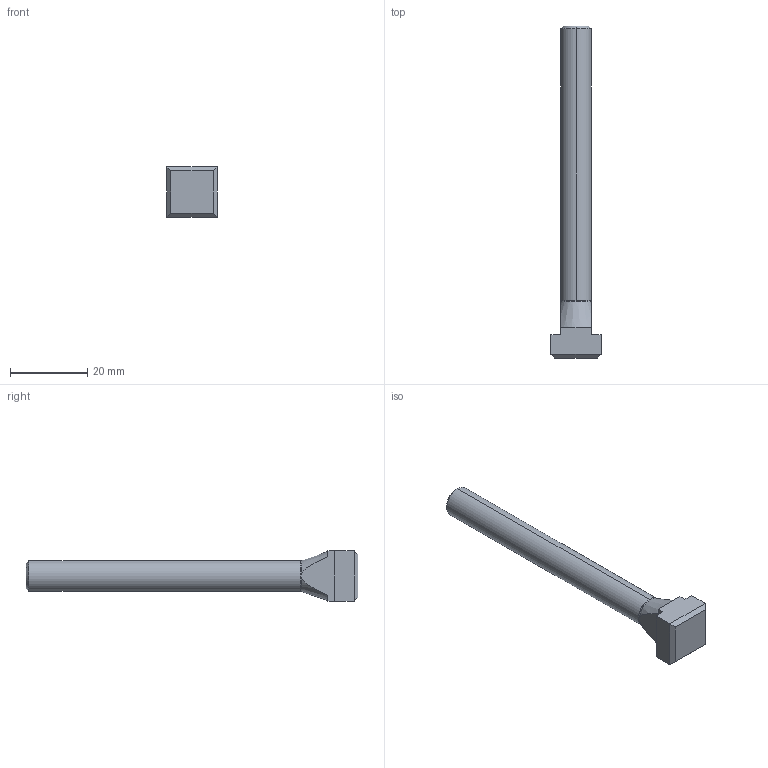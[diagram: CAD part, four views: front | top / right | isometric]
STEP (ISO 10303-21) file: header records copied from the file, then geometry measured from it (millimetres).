
FILE_DESCRIPTION (( 'STEP AP203' ), '1' );
FILE_NAME ('Wiberger-din787_8-m8x80.step', '2016-07-01T13:16:53', ( 'Magnus' ), ( 'Microsoft' ), 'SwSTEP 2.0', 'SolidWorks 2016', '' );
FILE_SCHEMA (( 'CONFIG_CONTROL_DESIGN' ));
Length unit declared in the file: millimetre
Products named in the file (1): Wiberger-din787_8-m8x80
Bounding box: 13 x 86 x 13 mm (x, y, z)
Volume: 5261.6 mm3; surface area: 2653.3 mm2
Topology: 1 solids, 1 shells, 28 faces, 70 edges, 44 vertices
Faces by surface type: plane 18, cone 5, cylinder 5
Entity records: 961 total; most frequent: CARTESIAN_POINT 215, ORIENTED_EDGE 140, DIRECTION 138, EDGE_CURVE 70, AXIS2_PLACEMENT_3D 47, LINE 44, VECTOR 44, VERTEX_POINT 44
